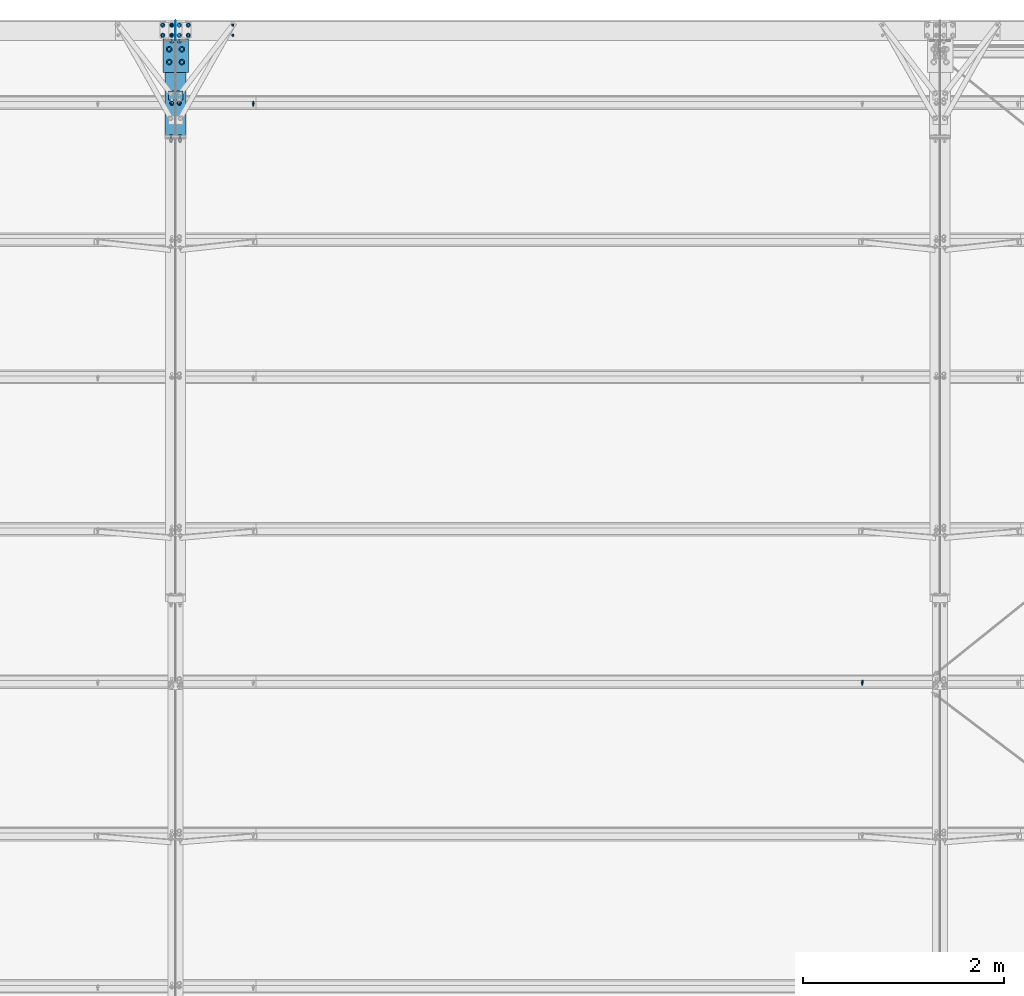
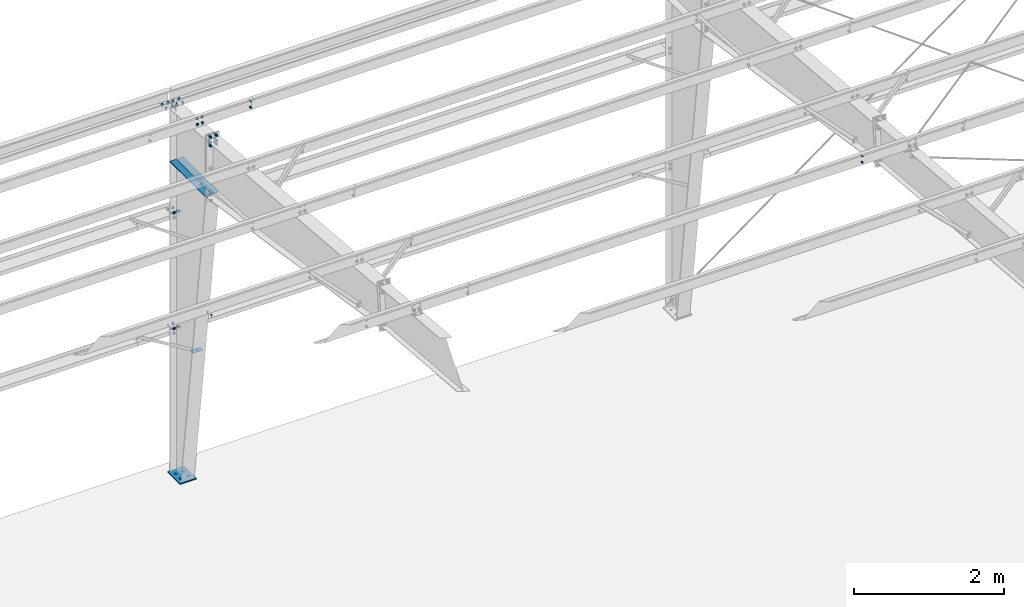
# One storey, part 97 of 185: 18 mechanical fasteners, 6 discrete accessories, 11 elements without a shape of their own.
"""IFC2X3 building model written with IfcOpenShell, lengths in millimetres."""

from ifc_helpers import new_model, si_unit, frame, origin_with_axes, origin_2d_with_axis, place, context, subcontext, project, spatial, polyline, rectangle, circle, outline, extrude, source, transform, mapped, material, type_object, element, aggregate, save


model = new_model("IFC2X3")

# Units and contexts
model_context = context("Model", 3, precision=1e-05, world=origin_with_axes())
body_context = subcontext(model_context, "Body", "Model", "MODEL_VIEW")
ifc_project = project(units=[si_unit("LENGTHUNIT", "METRE", prefix="MILLI"), si_unit("AREAUNIT", "SQUARE_METRE"), si_unit("VOLUMEUNIT", "CUBIC_METRE"), si_unit("MASSUNIT", "GRAM", prefix="KILO"), si_unit("TIMEUNIT", "SECOND"), si_unit("PLANEANGLEUNIT", "RADIAN"), si_unit("SOLIDANGLEUNIT", "STERADIAN"), si_unit("THERMODYNAMICTEMPERATUREUNIT", "DEGREE_CELSIUS"), si_unit("LUMINOUSINTENSITYUNIT", "LUMEN")], contexts=[model_context])

# Site, building, storey
site_placement = place(None, origin_with_axes())
site = spatial("IfcSite", under=ifc_project, at=site_placement, Name="Undefined", CompositionType="ELEMENT")
building_placement = place(site_placement, origin_with_axes())
building = spatial("IfcBuilding", under=site, at=building_placement, Name="Undefined", CompositionType="ELEMENT")
storey_placement = place(building_placement, origin_with_axes())
storey = spatial("IfcBuildingStorey", under=building, at=storey_placement, Name="Undefined", CompositionType="ELEMENT", Elevation=0.0)

# Assembly, discrete accessories
assembly_1_placement = place(storey_placement, origin_with_axes())
assembly_1 = element("IfcElementAssembly", 1, at=assembly_1_placement, inside=storey, Name="Steel Assembly", AssemblyPlace="NOTDEFINED", PredefinedType="RIGID_FRAME")
ifc_material_1 = material(Name="STEEL/55")
discrete_accessory_type_1 = type_object("IfcDiscreteAccessoryType", Name="Stiff")
discrete_accessory_1_placement = place(assembly_1_placement, frame((22424.23125, 31792.926, 5059.01498446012), z_axis=(1.0, 0.0, 0.0), x_axis=(0.0, -1.0, 0.0)))
discrete_accessory_1 = element("IfcDiscreteAccessory", 2, at=discrete_accessory_1_placement, type_object=discrete_accessory_type_1, material=ifc_material_1, Name="Stiff", ObjectType="FL3/8\"X4\"", context=body_context, shape_type="SweptSolid", body=[
    extrude(rectangle(XDim=9.525, YDim=101.6, at=origin_2d_with_axis()), frame((939.799999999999, 0.0, 0.0), z_axis=(-1.0, 0.0, 0.0), x_axis=(0.0, -1.0, 0.0)), (0.0, 0.0, 1.0), 939.8),
])
discrete_accessory_2_placement = place(assembly_1_placement, frame((22533.76875, 31792.926, 5059.01498446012), z_axis=(1.0, 0.0, 0.0), x_axis=(0.0, -1.0, 0.0)))
discrete_accessory_2 = element("IfcDiscreteAccessory", 3, at=discrete_accessory_2_placement, type_object=discrete_accessory_type_1, material=ifc_material_1, Name="Stiff", ObjectType="FL3/8\"X4\"", context=body_context, shape_type="SweptSolid", body=[
    extrude(rectangle(XDim=9.525, YDim=101.6, at=origin_2d_with_axis()), frame((939.799999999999, 0.0, 0.0), z_axis=(-1.0, 0.0, 0.0), x_axis=(0.0, -1.0, 0.0)), (0.0, 0.0, 1.0), 939.8),
])

# Assembly, mechanical fastener
assembly_2_placement = place(storey_placement, origin_with_axes())
assembly_2 = element("IfcElementAssembly", 4, at=assembly_2_placement, inside=storey, Name="Steel Assembly", AssemblyPlace="NOTDEFINED", PredefinedType="RIGID_FRAME")
ifc_material_2 = material(Name="Undefined")
discrete_accessory_type_2 = type_object("IfcDiscreteAccessoryType", Name="Bolt assembly")
shared_shape_1 = source(origin_with_axes(), body_context, "Body", "SweptSolid", [
    extrude(circle(Radius=7.14374971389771, at=origin_2d_with_axis()), frame((0.0, -1.59000001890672, 0.0), z_axis=(0.0, 1.0, 0.0), x_axis=(1.0, 0.0, 0.0)), (0.0, 0.0, 1.0), 3.3),
    extrude(circle(Radius=13.4937496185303, at=origin_2d_with_axis()), frame((0.0, -5.5587500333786, 0.0), z_axis=(0.0, 1.0, 0.0), x_axis=(1.0, 0.0, 0.0)), (0.0, 0.0, 1.0), 4.0),
    extrude(circle(Radius=22.2250003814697, at=origin_2d_with_axis()), frame((0.0, 1.5900000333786, 0.0), z_axis=(0.0, 1.0, 0.0), x_axis=(1.0, 0.0, 0.0)), (0.0, 0.0, 1.0), 7.9),
    extrude(outline(polyline([(12.8316099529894, 0.0), (6.4158049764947, 11.1125001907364), (-6.4158049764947, 11.1125001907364), (-12.8316099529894, 0.0), (-6.4158049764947, -11.1125001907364), (6.4158049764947, -11.1125001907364), (12.8316099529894, 0.0)])), frame((0.0, 9.5275000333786, 0.0), z_axis=(0.0, 1.0, 0.0), x_axis=(1.0, 0.0, 0.0)), (0.0, 0.0, 1.0), 12.3),
])
mechanical_fastener_1_placement = place(assembly_2_placement, frame((22440.9, 31185.1382206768, 6113.2623980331), z_axis=(-1.0, 0.0, 0.0), x_axis=(0.0, -0.0830454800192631, -0.996545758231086)))
mechanical_fastener_1 = element("IfcMechanicalFastener", 5, at=mechanical_fastener_1_placement, type_object=discrete_accessory_type_2, material=ifc_material_2, Name="Bolt assembly", NominalDiameter=12.6999998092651, NominalLength=38.0999984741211, context=body_context, shape_type="MappedRepresentation", body=[
    mapped(shared_shape_1, transform((0.0, 0.0, 0.0))),
    mapped(shared_shape_1, transform((101.599998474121, 0.0, 0.0))),
])
aggregate(assembly_2, [mechanical_fastener_1])

assembly_3_placement = place(storey_placement, origin_with_axes())
assembly_3 = element("IfcElementAssembly", 6, at=assembly_3_placement, inside=storey, Name="Steel Assembly", AssemblyPlace="NOTDEFINED", PredefinedType="RIGID_FRAME")
mechanical_fastener_2_placement = place(assembly_3_placement, frame((22517.1, 31185.1382206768, 6113.2623980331), z_axis=(-1.0, 0.0, 0.0), x_axis=(0.0, -0.0830454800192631, -0.996545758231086)))
mechanical_fastener_2 = element("IfcMechanicalFastener", 7, at=mechanical_fastener_2_placement, type_object=discrete_accessory_type_2, material=ifc_material_2, Name="Bolt assembly", NominalDiameter=12.6999998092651, NominalLength=38.0999984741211, context=body_context, shape_type="MappedRepresentation", body=[
    mapped(shared_shape_1, transform((0.0, 0.0, 0.0))),
    mapped(shared_shape_1, transform((101.599998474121, 0.0, 0.0))),
])

# Discrete accessory
discrete_accessory_type_3 = type_object("IfcDiscreteAccessoryType", Name="Base Plate")
discrete_accessory_3_placement = place(assembly_1_placement, frame((22479.0, 31813.4999998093, 7.93750000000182), z_axis=(-1.0, 0.0, 0.0), x_axis=(0.0, -1.0, 0.0)))
discrete_accessory_3 = element("IfcDiscreteAccessory", 8, at=discrete_accessory_3_placement, type_object=discrete_accessory_type_3, material=ifc_material_1, Name="Base Plate", ObjectType="FL5/8\"X10\"", context=body_context, shape_type="SweptSolid", body=[
    extrude(rectangle(XDim=15.875, YDim=254.0, at=origin_2d_with_axis()), frame((330.309933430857, 0.0, 0.0), z_axis=(-1.0, 0.0, 0.0), x_axis=(0.0, -1.0, 0.0)), (0.0, 0.0, 1.0), 330.3),
])

discrete_accessory_type_4 = type_object("IfcDiscreteAccessoryType", Name="FLANGE BRACE FLIP")
discrete_accessory_4_placement = place(assembly_1_placement, frame((22481.38125, 31251.9277679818, 2284.292), z_axis=(0.0, 1.0, 0.0), x_axis=(1.0, 0.0, 0.0)))
discrete_accessory_4 = element("IfcDiscreteAccessory", 9, at=discrete_accessory_4_placement, type_object=discrete_accessory_type_4, material=ifc_material_1, Name="FLANGE BRACE FLIP", ObjectType="PL1/8\"X2 3/4\"", context=body_context, shape_type="SweptSolid", body=[
    extrude(rectangle(XDim=3.416, YDim=85.725, at=origin_2d_with_axis()), frame((69.8499999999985, 0.0, 0.0), z_axis=(-1.0, 0.0, 0.0), x_axis=(0.0, -1.0, 0.0)), (0.0, 0.0, 1.0), 69.8),
])

discrete_accessory_5_placement = place(assembly_1_placement, frame((22476.61875, 31251.9277679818, 2284.292), z_axis=(0.0, 1.0, 0.0), x_axis=(-1.0, 0.0, 0.0)))
discrete_accessory_5 = element("IfcDiscreteAccessory", 10, at=discrete_accessory_5_placement, type_object=discrete_accessory_type_4, material=ifc_material_1, Name="FLANGE BRACE FLIP", ObjectType="PL1/8\"X2 3/4\"", context=body_context, shape_type="SweptSolid", body=[
    extrude(rectangle(XDim=3.416, YDim=85.725, at=origin_2d_with_axis()), frame((69.8499999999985, 0.0, 0.0), z_axis=(-1.0, 0.0, 0.0), x_axis=(0.0, -1.0, 0.0)), (0.0, 0.0, 1.0), 69.8),
])

# Assembly, mechanical fastener
assembly_4_placement = place(storey_placement, origin_with_axes())
assembly_4 = element("IfcElementAssembly", 11, at=assembly_4_placement, inside=storey, Name="Steel Assembly", AssemblyPlace="NOTDEFINED", PredefinedType="RIGID_FRAME")
shared_shape_2 = source(origin_with_axes(), body_context, "Body", "SweptSolid", [
    extrude(circle(Radius=7.14374971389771, at=origin_2d_with_axis()), frame((0.0, -0.1, 0.0), z_axis=(0.0, 1.0, 0.0), x_axis=(1.0, 0.0, 0.0)), (0.0, 0.0, 1.0), 8.0),
    extrude(circle(Radius=7.14374971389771, at=origin_2d_with_axis()), frame((0.0, -4.66250000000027, 0.0), z_axis=(0.0, 1.0, 0.0), x_axis=(1.0, 0.0, 0.0)), (0.0, 0.0, 1.0), 4.8),
    extrude(outline(polyline([(10.9985221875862, 0.0), (5.4992610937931, 9.52499961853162), (-5.4992610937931, 9.52499961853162), (-10.9985221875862, 0.0), (-5.4992610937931, -9.52499961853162), (5.4992610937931, -9.52499961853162), (10.9985221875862, 0.0)])), frame((0.0, -14.2874996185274, 0.0), z_axis=(0.0, 1.0, 0.0), x_axis=(1.0, 0.0, 0.0)), (0.0, 0.0, 1.0), 9.5),
    extrude(circle(Radius=6.34999990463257, at=origin_2d_with_axis()), frame((0.0, -4.76250000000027, 0.0), z_axis=(0.0, 1.0, 0.0), x_axis=(1.0, 0.0, 0.0)), (0.0, 0.0, 1.0), 38.1),
    extrude(circle(Radius=22.2250003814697, at=origin_2d_with_axis()), frame((0.0, 7.87399999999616, 0.0), z_axis=(0.0, 1.0, 0.0), x_axis=(1.0, 0.0, 0.0)), (0.0, 0.0, 1.0), 7.9),
    extrude(outline(polyline([(12.8316099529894, 0.0), (6.4158049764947, 11.1125001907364), (-6.4158049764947, 11.1125001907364), (-12.8316099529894, 0.0), (-6.4158049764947, -11.1125001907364), (6.4158049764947, -11.1125001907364), (12.8316099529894, 0.0)])), frame((0.0, 15.8114999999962, 0.0), z_axis=(0.0, 1.0, 0.0), x_axis=(1.0, 0.0, 0.0)), (0.0, 0.0, 1.0), 12.3),
])
mechanical_fastener_3_placement = place(assembly_4_placement, frame((22479.0, 31800.8, 2324.1), z_axis=(1.0, 0.0, 0.0), x_axis=(0.0, 0.0, 1.0)))
mechanical_fastener_3 = element("IfcMechanicalFastener", 12, at=mechanical_fastener_3_placement, type_object=discrete_accessory_type_2, material=ifc_material_2, Name="Bolt assembly", NominalDiameter=12.6999998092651, NominalLength=38.0999984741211, context=body_context, shape_type="MappedRepresentation", body=[
    mapped(shared_shape_2, transform((0.0, 0.0, -38.0999984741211))),
    mapped(shared_shape_2, transform((0.0, 0.0, 38.0999984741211))),
])

assembly_5_placement = place(storey_placement, origin_with_axes())
assembly_5 = element("IfcElementAssembly", 13, at=assembly_5_placement, inside=storey, Name="Steel Assembly", AssemblyPlace="NOTDEFINED", PredefinedType="RIGID_FRAME")
mechanical_fastener_4_placement = place(assembly_5_placement, frame((22479.0, 31800.8, 4203.7), z_axis=(1.0, 0.0, 0.0), x_axis=(0.0, 0.0, 1.0)))
mechanical_fastener_4 = element("IfcMechanicalFastener", 14, at=mechanical_fastener_4_placement, type_object=discrete_accessory_type_2, material=ifc_material_2, Name="Bolt assembly", NominalDiameter=12.6999998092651, NominalLength=38.0999984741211, context=body_context, shape_type="MappedRepresentation", body=[
    mapped(shared_shape_2, transform((0.0, 0.0, -38.0999984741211))),
    mapped(shared_shape_2, transform((0.0, 0.0, 38.0999984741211))),
])

assembly_6_placement = place(storey_placement, origin_with_axes())
assembly_6 = element("IfcElementAssembly", 15, at=assembly_6_placement, inside=storey, Name="Steel Assembly", AssemblyPlace="NOTDEFINED", PredefinedType="RIGID_FRAME")
shared_shape_3 = source(origin_with_axes(), body_context, "Body", "SweptSolid", [
    extrude(circle(Radius=7.14374971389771, at=origin_2d_with_axis()), frame((0.0, -1.4900000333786, 0.0), z_axis=(0.0, 1.0, 0.0), x_axis=(1.0, 0.0, 0.0)), (0.0, 0.0, 1.0), 3.2),
    extrude(circle(Radius=7.14374971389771, at=origin_2d_with_axis()), frame((0.0, -1.4900000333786, 0.0), z_axis=(0.0, 1.0, 0.0), x_axis=(1.0, 0.0, 0.0)), (0.0, 0.0, 1.0), 3.2),
    extrude(outline(polyline([(10.9985221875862, 0.0), (5.4992610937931, 9.52499961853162), (-5.4992610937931, 9.52499961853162), (-10.9985221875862, 0.0), (-5.4992610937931, -9.52499961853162), (5.4992610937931, -9.52499961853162), (10.9985221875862, 0.0)])), frame((0.0, -11.1149996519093, 0.0), z_axis=(0.0, 1.0, 0.0), x_axis=(1.0, 0.0, 0.0)), (0.0, 0.0, 1.0), 9.5),
    extrude(circle(Radius=6.34999990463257, at=origin_2d_with_axis()), frame((0.0, -1.59000001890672, 0.0), z_axis=(0.0, 1.0, 0.0), x_axis=(1.0, 0.0, 0.0)), (0.0, 0.0, 1.0), 38.1),
    extrude(outline(polyline([(12.8316099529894, 0.0), (6.4158049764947, 11.1125001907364), (-6.4158049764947, 11.1125001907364), (-12.8316099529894, 0.0), (-6.4158049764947, -11.1125001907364), (6.4158049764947, -11.1125001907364), (12.8316099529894, 0.0)])), frame((0.0, 1.5900000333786, 0.0), z_axis=(0.0, 1.0, 0.0), x_axis=(1.0, 0.0, 0.0)), (0.0, 0.0, 1.0), 12.3),
])
mechanical_fastener_5_placement = place(assembly_6_placement, frame((23050.5, 31953.2, 2286.0), z_axis=(1.0, 0.0, 0.0), x_axis=(0.0, -1.0, 0.0)))
mechanical_fastener_5 = element("IfcMechanicalFastener", 16, at=mechanical_fastener_5_placement, type_object=discrete_accessory_type_2, material=ifc_material_2, Name="Bolt assembly", NominalDiameter=12.6999998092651, NominalLength=38.0999984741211, context=body_context, shape_type="MappedRepresentation", body=[
    mapped(shared_shape_3, transform((0.0, 0.0, 0.0))),
    mapped(shared_shape_3, transform((101.599998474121, 0.0, 0.0))),
])

assembly_7_placement = place(storey_placement, origin_with_axes())
assembly_7 = element("IfcElementAssembly", 17, at=assembly_7_placement, inside=storey, Name="Steel Assembly", AssemblyPlace="NOTDEFINED", PredefinedType="RIGID_FRAME")
mechanical_fastener_6_placement = place(assembly_7_placement, frame((23050.5, 31953.2, 4165.6), z_axis=(1.0, 0.0, 0.0), x_axis=(0.0, -1.0, 0.0)))
mechanical_fastener_6 = element("IfcMechanicalFastener", 18, at=mechanical_fastener_6_placement, type_object=discrete_accessory_type_2, material=ifc_material_2, Name="Bolt assembly", NominalDiameter=12.6999998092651, NominalLength=38.0999984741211, context=body_context, shape_type="MappedRepresentation", body=[
    mapped(shared_shape_3, transform((0.0, 0.0, 0.0))),
    mapped(shared_shape_3, transform((101.599998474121, 0.0, 0.0))),
])

assembly_8_placement = place(storey_placement, origin_with_axes())
assembly_8 = element("IfcElementAssembly", 19, at=assembly_8_placement, inside=storey, Name="Steel Assembly", AssemblyPlace="NOTDEFINED", PredefinedType="RIGID_FRAME")
mechanical_fastener_7_placement = place(assembly_8_placement, frame((29324.3, 25413.9424255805, 6594.1953819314), z_axis=(-1.0, 0.0, 0.0), x_axis=(0.0, -0.0830454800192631, -0.996545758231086)))
mechanical_fastener_7 = element("IfcMechanicalFastener", 20, at=mechanical_fastener_7_placement, type_object=discrete_accessory_type_2, material=ifc_material_2, Name="Bolt assembly", NominalDiameter=12.6999998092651, NominalLength=38.0999984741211, context=body_context, shape_type="MappedRepresentation", body=[
    mapped(shared_shape_3, transform((0.0, 0.0, 0.0))),
    mapped(shared_shape_3, transform((101.599998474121, 0.0, 0.0))),
])
aggregate(assembly_8, [mechanical_fastener_7])

# Mechanical fastener
mechanical_fastener_8_placement = place(assembly_3_placement, frame((23253.7, 31185.1382206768, 6113.2623980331), z_axis=(-1.0, 0.0, 0.0), x_axis=(0.0, -0.0830454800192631, -0.996545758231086)))
mechanical_fastener_8 = element("IfcMechanicalFastener", 21, at=mechanical_fastener_8_placement, type_object=discrete_accessory_type_2, material=ifc_material_2, Name="Bolt assembly", NominalDiameter=12.6999998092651, NominalLength=38.0999984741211, context=body_context, shape_type="MappedRepresentation", body=[
    mapped(shared_shape_3, transform((0.0, 0.0, 0.0))),
    mapped(shared_shape_3, transform((101.599998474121, 0.0, 0.0))),
])

aggregate(assembly_3, [mechanical_fastener_2, mechanical_fastener_8])

# Discrete accessory
discrete_accessory_type_5 = type_object("IfcDiscreteAccessoryType", Name="Gusset")
discrete_accessory_6_placement = place(assembly_1_placement, frame((22479.0, 31800.8, 5901.05124136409), z_axis=(-1.0, 0.0, 0.0), x_axis=(0.0, 0.996545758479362, -0.0830454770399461)))
discrete_accessory_6 = element("IfcDiscreteAccessory", 22, at=discrete_accessory_6_placement, type_object=discrete_accessory_type_5, material=ifc_material_1, Name="Gusset", ObjectType="1/4\"X2 7/8\"", context=body_context, shape_type="SweptSolid", body=[
    extrude(outline(polyline([(0.0, 0.0), (203.427200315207, -7.38509697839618e-10), (6.32806539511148, 75.9367904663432), (0.0, 0.0)])), frame((0.0, 0.0, -3.175), z_axis=(0.0, 0.0, 1.0), x_axis=(1.0, 0.0, 0.0)), (0.0, 0.0, 1.0), 6.4),
])

# Mechanical fastener
shared_shape_4 = source(origin_with_axes(), body_context, "Body", "SweptSolid", [
    extrude(circle(Radius=10.3187494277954, at=origin_2d_with_axis()), frame((0.0, -0.1, 0.0), z_axis=(0.0, 1.0, 0.0), x_axis=(1.0, 0.0, 0.0)), (0.0, 0.0, 1.0), 15.8),
    extrude(circle(Radius=10.3187494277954, at=origin_2d_with_axis()), frame((0.0, -15.775, 0.0), z_axis=(0.0, 1.0, 0.0), x_axis=(1.0, 0.0, 0.0)), (0.0, 0.0, 1.0), 15.9),
    extrude(outline(polyline([(18.3308710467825, 0.0), (9.16543552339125, 15.8750000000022), (-9.16543552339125, 15.8750000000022), (-18.3308710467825, 0.0), (-9.16543552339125, -15.8750000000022), (9.16543552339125, -15.8750000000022), (18.3308710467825, 0.0)])), frame((0.0, -27.78125, 0.0), z_axis=(0.0, 1.0, 0.0), x_axis=(1.0, 0.0, 0.0)), (0.0, 0.0, 1.0), 11.9),
    extrude(circle(Radius=9.52499961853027, at=origin_2d_with_axis()), frame((0.0, -15.8750000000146, 0.0), z_axis=(0.0, 1.0, 0.0), x_axis=(1.0, 0.0, 0.0)), (0.0, 0.0, 1.0), 69.8),
    extrude(circle(Radius=22.2250003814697, at=origin_2d_with_axis()), frame((0.0, 15.7480000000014, 0.0), z_axis=(0.0, 1.0, 0.0), x_axis=(1.0, 0.0, 0.0)), (0.0, 0.0, 1.0), 7.9),
    extrude(outline(polyline([(18.3308710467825, 0.0), (9.16543552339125, 15.8750000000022), (-9.16543552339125, 15.8750000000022), (-18.3308710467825, 0.0), (-9.16543552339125, -15.8750000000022), (9.16543552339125, -15.8750000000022), (18.3308710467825, 0.0)])), frame((0.0, 23.6855000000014, 0.0), z_axis=(0.0, 1.0, 0.0), x_axis=(1.0, 0.0, 0.0)), (0.0, 0.0, 1.0), 19.0),
])
mechanical_fastener_9_placement = place(assembly_1_placement, frame((22479.0, 30837.251, 6029.10448751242), z_axis=(-1.0, 0.0, 0.0), x_axis=(0.0, 0.0, -1.0)))
mechanical_fastener_9 = element("IfcMechanicalFastener", 23, at=mechanical_fastener_9_placement, type_object=discrete_accessory_type_2, material=ifc_material_2, Name="Bolt assembly", NominalDiameter=19.0499992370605, NominalLength=69.8499984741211, context=body_context, shape_type="MappedRepresentation", body=[
    mapped(shared_shape_4, transform((0.0, 0.0, -44.4500007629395))),
    mapped(shared_shape_4, transform((82.5500030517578, 0.0, -44.4500007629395))),
    mapped(shared_shape_4, transform((139.699996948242, 0.0, -44.4500007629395))),
    mapped(shared_shape_4, transform((0.0, 0.0, 44.4500007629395))),
    mapped(shared_shape_4, transform((82.5500030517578, 0.0, 44.4500007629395))),
    mapped(shared_shape_4, transform((139.699996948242, 0.0, 44.4500007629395))),
])

ifc_material_3 = material(Name="7990")
shared_shape_5 = source(origin_with_axes(), body_context, "Body", "SweptSolid", [
    extrude(circle(Radius=7.14374971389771, at=origin_2d_with_axis()), frame((0.0, -1.4900000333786, 0.0), z_axis=(0.0, 1.0, 0.0), x_axis=(1.0, 0.0, 0.0)), (0.0, 0.0, 1.0), 3.2),
    extrude(circle(Radius=7.14374971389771, at=origin_2d_with_axis()), frame((0.0, -1.4900000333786, 0.0), z_axis=(0.0, 1.0, 0.0), x_axis=(1.0, 0.0, 0.0)), (0.0, 0.0, 1.0), 3.2),
    extrude(circle(Radius=11.4299998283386, at=origin_2d_with_axis()), frame((0.0, 1.5900000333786, 0.0), z_axis=(0.0, 1.0, 0.0), x_axis=(1.0, 0.0, 0.0)), (0.0, 0.0, 1.0), 4.2),
    extrude(outline(polyline([(12.171698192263, 0.0), (6.08584909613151, 10.5409998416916), (-6.08584909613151, 10.5409998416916), (-12.171698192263, 0.0), (-6.08584909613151, -10.5409998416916), (6.08584909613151, -10.5409998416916), (12.171698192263, 0.0)])), frame((0.0, 5.78099997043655, 0.0), z_axis=(0.0, 1.0, 0.0), x_axis=(1.0, 0.0, 0.0)), (0.0, 0.0, 1.0), 8.4),
])
mechanical_fastener_10_placement = place(assembly_6_placement, frame((22440.9, 31953.2, 2286.0), z_axis=(1.0, 0.0, 0.0), x_axis=(0.0, -1.0, 0.0)))
mechanical_fastener_10 = element("IfcMechanicalFastener", 24, at=mechanical_fastener_10_placement, type_object=discrete_accessory_type_2, material=ifc_material_3, Name="Bolt assembly", NominalDiameter=12.6999998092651, NominalLength=38.0999984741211, context=body_context, shape_type="MappedRepresentation", body=[
    mapped(shared_shape_5, transform((0.0, 0.0, 0.0))),
    mapped(shared_shape_5, transform((101.599998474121, 0.0, 0.0))),
])

aggregate(assembly_6, [mechanical_fastener_10, mechanical_fastener_5])

mechanical_fastener_11_placement = place(assembly_7_placement, frame((22440.9, 31953.2, 4165.6), z_axis=(1.0, 0.0, 0.0), x_axis=(0.0, -1.0, 0.0)))
mechanical_fastener_11 = element("IfcMechanicalFastener", 25, at=mechanical_fastener_11_placement, type_object=discrete_accessory_type_2, material=ifc_material_3, Name="Bolt assembly", NominalDiameter=12.6999998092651, NominalLength=38.0999984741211, context=body_context, shape_type="MappedRepresentation", body=[
    mapped(shared_shape_5, transform((0.0, 0.0, 0.0))),
    mapped(shared_shape_5, transform((101.599998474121, 0.0, 0.0))),
])

aggregate(assembly_7, [mechanical_fastener_11, mechanical_fastener_6])

shared_shape_6 = source(origin_with_axes(), body_context, "Body", "SweptSolid", [
    extrude(circle(Radius=7.14374971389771, at=origin_2d_with_axis()), frame((0.0, -1.59000001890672, 0.0), z_axis=(0.0, 1.0, 0.0), x_axis=(1.0, 0.0, 0.0)), (0.0, 0.0, 1.0), 3.2),
    extrude(circle(Radius=7.14374971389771, at=origin_2d_with_axis()), frame((0.0, -4.66250000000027, 0.0), z_axis=(0.0, 1.0, 0.0), x_axis=(1.0, 0.0, 0.0)), (0.0, 0.0, 1.0), 4.8),
    extrude(circle(Radius=7.14374971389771, at=origin_2d_with_axis()), frame((0.0, -1.59000001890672, 0.0), z_axis=(0.0, 1.0, 0.0), x_axis=(1.0, 0.0, 0.0)), (0.0, 0.0, 1.0), 3.2),
    extrude(outline(polyline([(10.9985221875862, 0.0), (5.4992610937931, 9.52499961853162), (-5.4992610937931, 9.52499961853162), (-10.9985221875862, 0.0), (-5.4992610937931, -9.52499961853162), (5.4992610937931, -9.52499961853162), (10.9985221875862, 0.0)])), frame((0.0, -18.2562496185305, 0.0), z_axis=(0.0, 1.0, 0.0), x_axis=(1.0, 0.0, 0.0)), (0.0, 0.0, 1.0), 9.5),
    extrude(circle(Radius=6.34999990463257, at=origin_2d_with_axis()), frame((0.0, -8.73125000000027, 0.0), z_axis=(0.0, 1.0, 0.0), x_axis=(1.0, 0.0, 0.0)), (0.0, 0.0, 1.0), 38.1),
    extrude(circle(Radius=13.4937496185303, at=origin_2d_with_axis()), frame((0.0, -8.73125000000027, 0.0), z_axis=(0.0, 1.0, 0.0), x_axis=(1.0, 0.0, 0.0)), (0.0, 0.0, 1.0), 4.0),
    extrude(circle(Radius=22.2250003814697, at=origin_2d_with_axis()), frame((0.0, 1.5900000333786, 0.0), z_axis=(0.0, 1.0, 0.0), x_axis=(1.0, 0.0, 0.0)), (0.0, 0.0, 1.0), 7.9),
    extrude(outline(polyline([(12.8316099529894, 0.0), (6.4158049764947, 11.1125001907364), (-6.4158049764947, 11.1125001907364), (-12.8316099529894, 0.0), (-6.4158049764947, -11.1125001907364), (6.4158049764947, -11.1125001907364), (12.8316099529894, 0.0)])), frame((0.0, 9.5275000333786, 0.0), z_axis=(0.0, 1.0, 0.0), x_axis=(1.0, 0.0, 0.0)), (0.0, 0.0, 1.0), 12.3),
])
mechanical_fastener_12_placement = place(assembly_4_placement, frame((22517.1, 31953.2, 2286.0), z_axis=(1.0, 0.0, 0.0), x_axis=(0.0, -1.0, 0.0)))
mechanical_fastener_12 = element("IfcMechanicalFastener", 26, at=mechanical_fastener_12_placement, type_object=discrete_accessory_type_2, material=ifc_material_2, Name="Bolt assembly", NominalDiameter=12.6999998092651, NominalLength=38.0999984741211, context=body_context, shape_type="MappedRepresentation", body=[
    mapped(shared_shape_6, transform((0.0, 0.0, 0.0))),
    mapped(shared_shape_6, transform((101.599998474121, 0.0, 0.0))),
])

aggregate(assembly_4, [mechanical_fastener_3, mechanical_fastener_12])

mechanical_fastener_13_placement = place(assembly_5_placement, frame((22517.1, 31953.2, 4165.6), z_axis=(1.0, 0.0, 0.0), x_axis=(0.0, -1.0, 0.0)))
mechanical_fastener_13 = element("IfcMechanicalFastener", 27, at=mechanical_fastener_13_placement, type_object=discrete_accessory_type_2, material=ifc_material_2, Name="Bolt assembly", NominalDiameter=12.6999998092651, NominalLength=38.0999984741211, context=body_context, shape_type="MappedRepresentation", body=[
    mapped(shared_shape_6, transform((0.0, 0.0, 0.0))),
    mapped(shared_shape_6, transform((101.599998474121, 0.0, 0.0))),
])

aggregate(assembly_5, [mechanical_fastener_4, mechanical_fastener_13])

# Assembly, mechanical fasteners
assembly_9_placement = place(storey_placement, origin_with_axes())
assembly_9 = element("IfcElementAssembly", 28, at=assembly_9_placement, inside=storey, Name="Steel Assembly", AssemblyPlace="NOTDEFINED", PredefinedType="RIGID_FRAME")
shared_shape_7 = source(origin_with_axes(), body_context, "Body", "SweptSolid", [
    extrude(circle(Radius=7.14499998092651, at=origin_2d_with_axis()), frame((0.0, -7.8375000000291, 0.0), z_axis=(0.0, 1.0, 0.0), x_axis=(1.0, 0.0, 0.0)), (0.0, 0.0, 1.0), 6.4),
    extrude(circle(Radius=7.14499998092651, at=origin_2d_with_axis()), frame((0.0, -1.58749999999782, 0.0), z_axis=(0.0, 1.0, 0.0), x_axis=(1.0, 0.0, 0.0)), (0.0, 0.0, 1.0), 1.6),
    extrude(circle(Radius=7.14499998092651, at=origin_2d_with_axis()), frame((0.0, -0.1, 0.0), z_axis=(0.0, 1.0, 0.0), x_axis=(1.0, 0.0, 0.0)), (0.0, 0.0, 1.0), 8.1),
    extrude(outline(polyline([(12.8316099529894, 0.0), (6.4158049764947, 11.1125001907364), (-6.4158049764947, 11.1125001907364), (-12.8316099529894, 0.0), (-6.4158049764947, -11.1125001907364), (6.4158049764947, -11.1125001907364), (12.8316099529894, 0.0)])), frame((0.0, -15.8750000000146, 0.0), z_axis=(0.0, 1.0, 0.0), x_axis=(1.0, 0.0, 0.0)), (0.0, 0.0, 1.0), 7.9),
    extrude(circle(Radius=6.34999990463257, at=origin_2d_with_axis()), frame((0.0, -7.93749389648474, 0.0), z_axis=(0.0, 1.0, 0.0), x_axis=(1.0, 0.0, 0.0)), (0.0, 0.0, 1.0), 50.8),
    extrude(circle(Radius=22.2250003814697, at=origin_2d_with_axis()), frame((0.0, 7.95019856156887, 0.0), z_axis=(0.0, 1.0, 0.0), x_axis=(1.0, 0.0, 0.0)), (0.0, 0.0, 1.0), 7.9),
    extrude(outline(polyline([(12.8316099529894, 0.0), (6.4158049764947, 11.1125001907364), (-6.4158049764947, 11.1125001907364), (-12.8316099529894, 0.0), (-6.4158049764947, -11.1125001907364), (6.4158049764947, -11.1125001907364), (12.8316099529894, 0.0)])), frame((0.0, 15.8876985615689, 0.0), z_axis=(0.0, 1.0, 0.0), x_axis=(1.0, 0.0, 0.0)), (0.0, 0.0, 1.0), 12.3),
])
mechanical_fastener_14_placement = place(assembly_9_placement, frame((22517.1, 31953.3754762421, 5896.3143754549), z_axis=(1.0, 0.0, 0.0), x_axis=(0.0, -0.996545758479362, 0.0830454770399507)))
mechanical_fastener_14 = element("IfcMechanicalFastener", 29, at=mechanical_fastener_14_placement, type_object=discrete_accessory_type_2, material=ifc_material_2, Name="Bolt assembly", NominalDiameter=12.6999998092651, NominalLength=50.7999992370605, context=body_context, shape_type="MappedRepresentation", body=[
    mapped(shared_shape_7, transform((0.0, 0.0, 0.0))),
    mapped(shared_shape_7, transform((101.599998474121, 0.0, 0.0))),
])
shared_shape_8 = source(origin_with_axes(), body_context, "Body", "SweptSolid", [
    extrude(circle(Radius=7.14499998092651, at=origin_2d_with_axis()), frame((0.0, -7.8375000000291, 0.0), z_axis=(0.0, 1.0, 0.0), x_axis=(1.0, 0.0, 0.0)), (0.0, 0.0, 1.0), 6.4),
    extrude(circle(Radius=7.14499998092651, at=origin_2d_with_axis()), frame((0.0, -1.68750355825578, 0.0), z_axis=(0.0, 1.0, 0.0), x_axis=(1.0, 0.0, 0.0)), (0.0, 0.0, 1.0), 1.7),
    extrude(outline(polyline([(12.8316099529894, 0.0), (6.4158049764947, 11.1125001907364), (-6.4158049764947, 11.1125001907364), (-12.8316099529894, 0.0), (-6.4158049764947, -11.1125001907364), (6.4158049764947, -11.1125001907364), (12.8316099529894, 0.0)])), frame((0.0, -15.8750000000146, 0.0), z_axis=(0.0, 1.0, 0.0), x_axis=(1.0, 0.0, 0.0)), (0.0, 0.0, 1.0), 7.9),
    extrude(circle(Radius=6.34999990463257, at=origin_2d_with_axis()), frame((0.0, -7.93749389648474, 0.0), z_axis=(0.0, 1.0, 0.0), x_axis=(1.0, 0.0, 0.0)), (0.0, 0.0, 1.0), 50.8),
    extrude(circle(Radius=22.2250003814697, at=origin_2d_with_axis()), frame((0.0, 0.0, 0.0), z_axis=(0.0, 1.0, 0.0), x_axis=(1.0, 0.0, 0.0)), (0.0, 0.0, 1.0), 7.9),
    extrude(outline(polyline([(12.8316099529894, 0.0), (6.4158049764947, 11.1125001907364), (-6.4158049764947, 11.1125001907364), (-12.8316099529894, 0.0), (-6.4158049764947, -11.1125001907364), (6.4158049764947, -11.1125001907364), (12.8316099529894, 0.0)])), frame((0.0, 7.93750000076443, 0.0), z_axis=(0.0, 1.0, 0.0), x_axis=(1.0, 0.0, 0.0)), (0.0, 0.0, 1.0), 12.3),
])
mechanical_fastener_15_placement = place(assembly_9_placement, frame((22606.0, 31953.3754762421, 5896.3143754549), z_axis=(1.0, 0.0, 0.0), x_axis=(0.0, -0.996545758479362, 0.0830454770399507)))
mechanical_fastener_15 = element("IfcMechanicalFastener", 30, at=mechanical_fastener_15_placement, type_object=discrete_accessory_type_2, material=ifc_material_2, Name="Bolt assembly", NominalDiameter=12.6999998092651, NominalLength=50.7999992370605, context=body_context, shape_type="MappedRepresentation", body=[
    mapped(shared_shape_8, transform((0.0, 0.0, 0.0))),
    mapped(shared_shape_8, transform((101.599998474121, 0.0, 0.0))),
])
aggregate(assembly_9, [mechanical_fastener_14, mechanical_fastener_15])

# Assembly, mechanical fastener
assembly_10_placement = place(storey_placement, origin_with_axes())
assembly_10 = element("IfcElementAssembly", 31, at=assembly_10_placement, inside=storey, Name="Steel Assembly", AssemblyPlace="NOTDEFINED", PredefinedType="RIGID_FRAME")
shared_shape_9 = source(origin_with_axes(), body_context, "Body", "SweptSolid", [
    extrude(circle(Radius=7.14374971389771, at=origin_2d_with_axis()), frame((0.0, -7.8375000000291, 0.0), z_axis=(0.0, 1.0, 0.0), x_axis=(1.0, 0.0, 0.0)), (0.0, 0.0, 1.0), 6.4),
    extrude(circle(Radius=7.14374971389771, at=origin_2d_with_axis()), frame((0.0, -1.68750355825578, 0.0), z_axis=(0.0, 1.0, 0.0), x_axis=(1.0, 0.0, 0.0)), (0.0, 0.0, 1.0), 1.7),
    extrude(outline(polyline([(12.8316099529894, 0.0), (6.4158049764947, 11.1125001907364), (-6.4158049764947, 11.1125001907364), (-12.8316099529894, 0.0), (-6.4158049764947, -11.1125001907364), (6.4158049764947, -11.1125001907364), (12.8316099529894, 0.0)])), frame((0.0, -15.8750000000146, 0.0), z_axis=(0.0, 1.0, 0.0), x_axis=(1.0, 0.0, 0.0)), (0.0, 0.0, 1.0), 7.9),
    extrude(circle(Radius=6.34999990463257, at=origin_2d_with_axis()), frame((0.0, -7.93749389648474, 0.0), z_axis=(0.0, 1.0, 0.0), x_axis=(1.0, 0.0, 0.0)), (0.0, 0.0, 1.0), 50.8),
    extrude(circle(Radius=22.2250003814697, at=origin_2d_with_axis()), frame((0.0, 0.0, 0.0), z_axis=(0.0, 1.0, 0.0), x_axis=(1.0, 0.0, 0.0)), (0.0, 0.0, 1.0), 7.9),
    extrude(outline(polyline([(12.8316099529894, 0.0), (6.4158049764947, 11.1125001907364), (-6.4158049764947, 11.1125001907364), (-12.8316099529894, 0.0), (-6.4158049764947, -11.1125001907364), (6.4158049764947, -11.1125001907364), (12.8316099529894, 0.0)])), frame((0.0, 7.93750000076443, 0.0), z_axis=(0.0, 1.0, 0.0), x_axis=(1.0, 0.0, 0.0)), (0.0, 0.0, 1.0), 12.3),
])
mechanical_fastener_16_placement = place(assembly_10_placement, frame((22352.0, 31953.3754762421, 5896.3143754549), z_axis=(1.0, 0.0, 0.0), x_axis=(0.0, -0.996545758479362, 0.0830454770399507)))
mechanical_fastener_16 = element("IfcMechanicalFastener", 32, at=mechanical_fastener_16_placement, type_object=discrete_accessory_type_2, material=ifc_material_2, Name="Bolt assembly", NominalDiameter=12.6999998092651, NominalLength=50.7999992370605, context=body_context, shape_type="MappedRepresentation", body=[
    mapped(shared_shape_9, transform((0.0, 0.0, 0.0))),
    mapped(shared_shape_9, transform((101.599998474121, 0.0, 0.0))),
])
aggregate(assembly_10, [mechanical_fastener_16])

assembly_11_placement = place(storey_placement, origin_with_axes())
assembly_11 = element("IfcElementAssembly", 33, at=assembly_11_placement, inside=storey, Name="Steel Assembly", AssemblyPlace="NOTDEFINED", PredefinedType="RIGID_FRAME")
shared_shape_10 = source(origin_with_axes(), body_context, "Body", "SweptSolid", [
    extrude(circle(Radius=7.14499998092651, at=origin_2d_with_axis()), frame((0.0, -1.58749999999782, 0.0), z_axis=(0.0, 1.0, 0.0), x_axis=(1.0, 0.0, 0.0)), (0.0, 0.0, 1.0), 1.6),
    extrude(circle(Radius=7.14499998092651, at=origin_2d_with_axis()), frame((0.0, -7.8375000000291, 0.0), z_axis=(0.0, 1.0, 0.0), x_axis=(1.0, 0.0, 0.0)), (0.0, 0.0, 1.0), 6.4),
    extrude(circle(Radius=7.14499998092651, at=origin_2d_with_axis()), frame((0.0, -0.1, 0.0), z_axis=(0.0, 1.0, 0.0), x_axis=(1.0, 0.0, 0.0)), (0.0, 0.0, 1.0), 8.1),
    extrude(outline(polyline([(12.8316099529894, 0.0), (6.4158049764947, 11.1125001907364), (-6.4158049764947, 11.1125001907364), (-12.8316099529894, 0.0), (-6.4158049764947, -11.1125001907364), (6.4158049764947, -11.1125001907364), (12.8316099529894, 0.0)])), frame((0.0, -15.8750000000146, 0.0), z_axis=(0.0, 1.0, 0.0), x_axis=(1.0, 0.0, 0.0)), (0.0, 0.0, 1.0), 7.9),
    extrude(circle(Radius=6.34999990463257, at=origin_2d_with_axis()), frame((0.0, -7.93749389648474, 0.0), z_axis=(0.0, 1.0, 0.0), x_axis=(1.0, 0.0, 0.0)), (0.0, 0.0, 1.0), 50.8),
    extrude(circle(Radius=22.2250003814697, at=origin_2d_with_axis()), frame((0.0, 7.95019856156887, 0.0), z_axis=(0.0, 1.0, 0.0), x_axis=(1.0, 0.0, 0.0)), (0.0, 0.0, 1.0), 7.9),
    extrude(outline(polyline([(12.8316099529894, 0.0), (6.4158049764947, 11.1125001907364), (-6.4158049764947, 11.1125001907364), (-12.8316099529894, 0.0), (-6.4158049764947, -11.1125001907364), (6.4158049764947, -11.1125001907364), (12.8316099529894, 0.0)])), frame((0.0, 15.8876985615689, 0.0), z_axis=(0.0, 1.0, 0.0), x_axis=(1.0, 0.0, 0.0)), (0.0, 0.0, 1.0), 12.3),
])
mechanical_fastener_17_placement = place(assembly_11_placement, frame((22440.9, 31953.3754762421, 5896.3143754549), z_axis=(1.0, 0.0, 0.0), x_axis=(0.0, -0.996545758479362, 0.0830454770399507)))
mechanical_fastener_17 = element("IfcMechanicalFastener", 34, at=mechanical_fastener_17_placement, type_object=discrete_accessory_type_2, material=ifc_material_2, Name="Bolt assembly", NominalDiameter=12.6999998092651, NominalLength=50.7999992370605, context=body_context, shape_type="MappedRepresentation", body=[
    mapped(shared_shape_10, transform((0.0, 0.0, 0.0))),
    mapped(shared_shape_10, transform((101.599998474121, 0.0, 0.0))),
])
aggregate(assembly_11, [mechanical_fastener_17])

# Mechanical fastener
shared_shape_11 = source(origin_with_axes(), body_context, "Body", "SweptSolid", [
    extrude(circle(Radius=18.2562503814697, at=origin_2d_with_axis()), frame((0.0, -15.8750000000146, 0.0), z_axis=(0.0, 1.0, 0.0), x_axis=(1.0, 0.0, 0.0)), (0.0, 0.0, 1.0), 16.0),
    extrude(circle(Radius=28.575, at=origin_2d_with_axis()), frame((0.0, 0.0, 0.0), z_axis=(0.0, 1.0, 0.0), x_axis=(1.0, 0.0, 0.0)), (0.0, 0.0, 1.0), 10.5),
    extrude(outline(polyline([(30.4292459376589, 0.0), (15.2146229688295, 26.3525000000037), (-15.2146229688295, 26.3525000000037), (-30.4292459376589, 0.0), (-15.2146229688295, -26.3525000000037), (15.2146229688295, -26.3525000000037), (30.4292459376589, 0.0)])), frame((0.0, 10.4775, 0.0), z_axis=(0.0, 1.0, 0.0), x_axis=(1.0, 0.0, 0.0)), (0.0, 0.0, 1.0), 21.0),
])
mechanical_fastener_18_placement = place(assembly_1_placement, frame((22479.0, 31711.8999984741, 1.81898940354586e-12), z_axis=(1.0, 0.0, 0.0), x_axis=(0.0, -1.0, 0.0)))
mechanical_fastener_18 = element("IfcMechanicalFastener", 35, at=mechanical_fastener_18_placement, type_object=discrete_accessory_type_2, material=ifc_material_3, Name="Bolt assembly", NominalDiameter=31.75, NominalLength=15.875, context=body_context, shape_type="MappedRepresentation", body=[
    mapped(shared_shape_11, transform((0.0, 0.0, -63.5))),
    mapped(shared_shape_11, transform((127.0, 0.0, -63.5))),
    mapped(shared_shape_11, transform((0.0, 0.0, 63.5))),
    mapped(shared_shape_11, transform((127.0, 0.0, 63.5))),
])

aggregate(assembly_1, [discrete_accessory_6, discrete_accessory_4, discrete_accessory_5, mechanical_fastener_9, mechanical_fastener_18, discrete_accessory_1, discrete_accessory_2, discrete_accessory_3])

save(model, "model.ifc")
